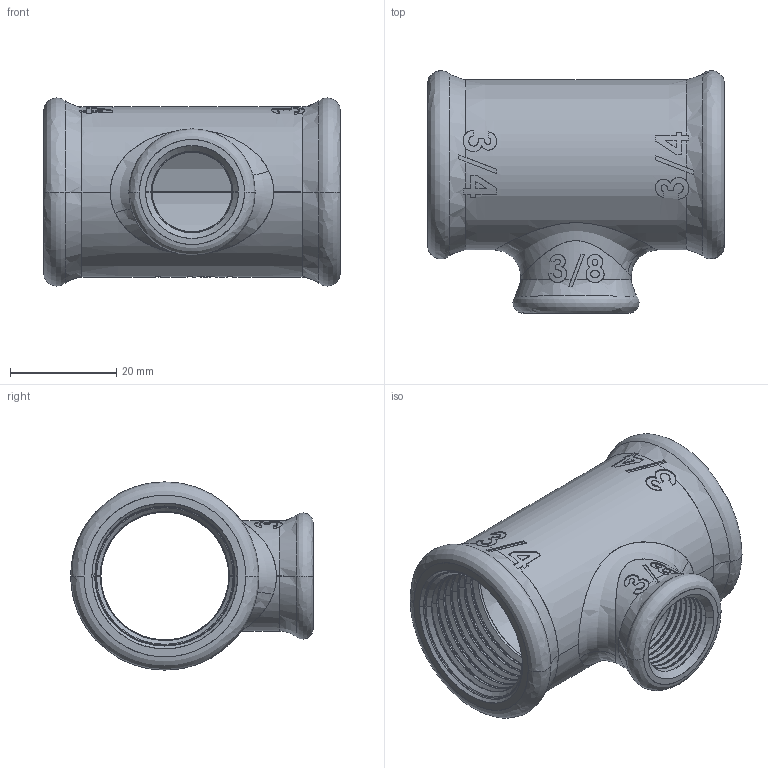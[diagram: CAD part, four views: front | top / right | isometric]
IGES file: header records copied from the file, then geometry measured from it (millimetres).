
Start section: SolidWorks IGES file using analytic representation for surfaces
Global section: file name: C:\Users\Joel Rosa\Desktop\Tubulação\12-45-XXX\12-45-028.IGS; native system: SolidWorks 2011; preprocessor: SolidWorks 2011; author: Joel Rosa; date: 121212.233104; units: millimetre
Bounding box: 56 x 45.75 x 35.5 mm (x, y, z)
Surface area: 14113.1 mm2 (no closed solid volume)
Topology: 0 solids, 0 shells, 439 faces, 5085 edges, 5085 vertices
Faces by surface type: bspline 311, revolution 128
